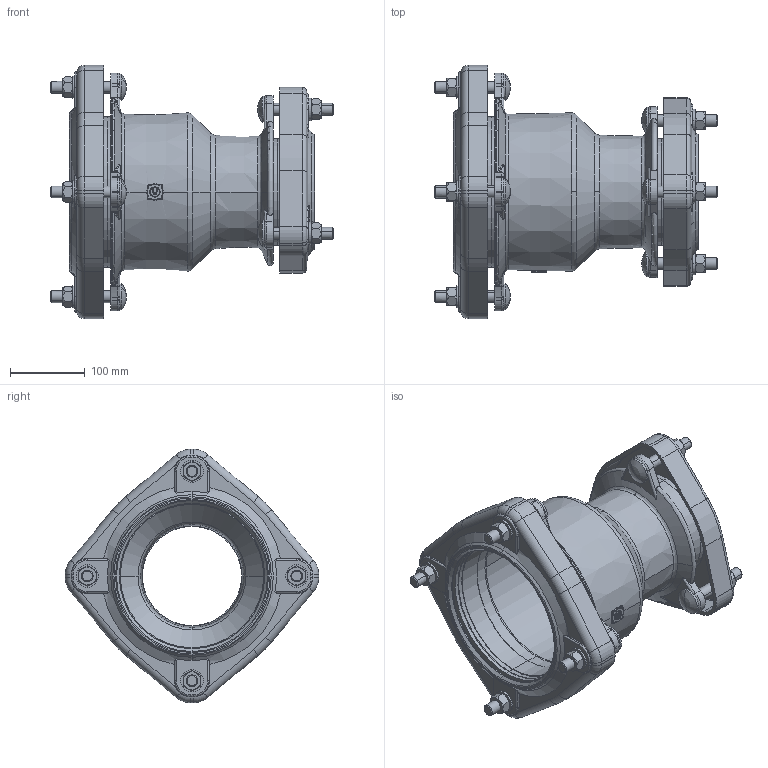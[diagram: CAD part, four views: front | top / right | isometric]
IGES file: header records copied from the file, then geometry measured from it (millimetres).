
Global section: file name: No Iges File Name specified; native system: AutoDesk Inventor R12.0; preprocessor: AutoDesk Inventor Iges Exporter R12.0; date: 20120503.092400; units: millimetre
Bounding box: 378.5 x 338.8 x 338.8 mm (x, y, z)
Volume: 2355422.6 mm3; surface area: 760231.1 mm2
Topology: 1 solids, 1 shells, 1302 faces, 3416 edges, 2154 vertices
Faces by surface type: plane 454, revolution 231, cylinder 223, bspline 166, cone 119, torus 109
